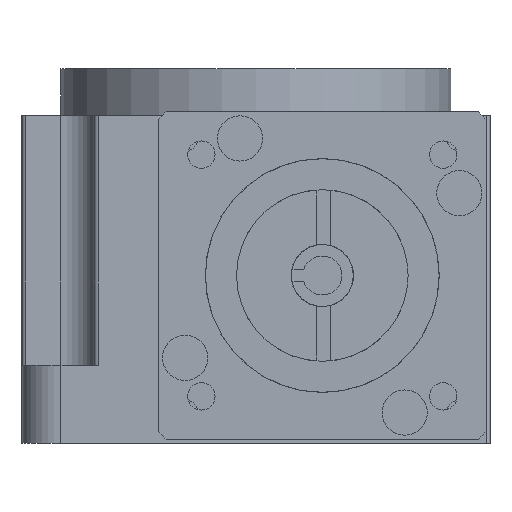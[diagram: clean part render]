
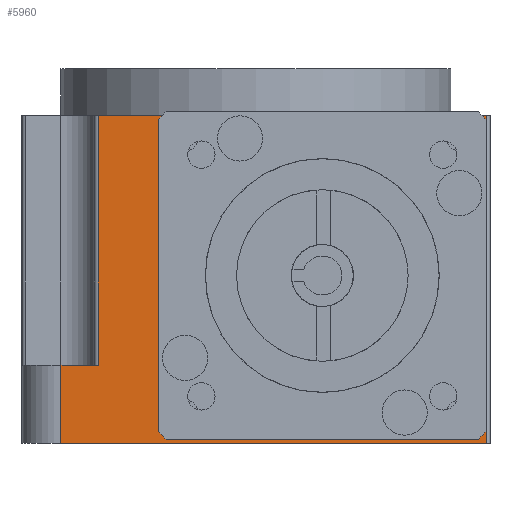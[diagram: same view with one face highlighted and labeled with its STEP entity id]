
A CAD part, front view. The second image highlights one B-rep face of the part: STEP entity #5960.
In plain terms, the highlighted planar face has unit normal (0, -1, 0).
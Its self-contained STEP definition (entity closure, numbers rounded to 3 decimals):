
#32 = VERTEX_POINT ( 'NONE', #13307 ) ;
#243 = DIRECTION ( 'NONE',  ( 0., -1., 0. ) ) ;
#287 = CARTESIAN_POINT ( 'NONE',  ( -25., -35., 10. ) ) ;
#295 = CARTESIAN_POINT ( 'NONE',  ( -8.5, -35., 38.5 ) ) ;
#311 = VECTOR ( 'NONE', #7309, 1000. ) ;
#409 = AXIS2_PLACEMENT_3D ( 'NONE', #13003, #5210, #14335 ) ;
#769 = LINE ( 'NONE', #7636, #14625 ) ;
#887 = VECTOR ( 'NONE', #15880, 1000. ) ;
#969 = AXIS2_PLACEMENT_3D ( 'NONE', #16643, #15667, #14641 ) ;
#1146 = DIRECTION ( 'NONE',  ( 0., 0., -1. ) ) ;
#1267 = CARTESIAN_POINT ( 'NONE',  ( 29.5, -35., 42. ) ) ;
#1392 = CARTESIAN_POINT ( 'NONE',  ( -25., -35., 42. ) ) ;
#1528 = DIRECTION ( 'NONE',  ( 0., 0., 1. ) ) ;
#2205 = ORIENTED_EDGE ( 'NONE', *, *, #13709, .F. ) ;
#2221 = VERTEX_POINT ( 'NONE', #7069 ) ;
#2441 = ORIENTED_EDGE ( 'NONE', *, *, #3795, .F. ) ;
#2937 = LINE ( 'NONE', #10856, #12907 ) ;
#2983 = ORIENTED_EDGE ( 'NONE', *, *, #12476, .F. ) ;
#3013 = VECTOR ( 'NONE', #5856, 1000. ) ;
#3123 = EDGE_CURVE ( 'NONE', #9790, #3442, #14917, .T. ) ;
#3253 = ORIENTED_EDGE ( 'NONE', *, *, #15693, .F. ) ;
#3392 = CIRCLE ( 'NONE', #409, 3. ) ;
#3442 = VERTEX_POINT ( 'NONE', #8932 ) ;
#3502 = ORIENTED_EDGE ( 'NONE', *, *, #3123, .F. ) ;
#3596 = CARTESIAN_POINT ( 'NONE',  ( -25., -35., 10. ) ) ;
#3750 = FACE_OUTER_BOUND ( 'NONE', #12372, .T. ) ;
#3795 = EDGE_CURVE ( 'NONE', #13877, #16202, #4103, .T. ) ;
#3850 = FACE_BOUND ( 'NONE', #12995, .T. ) ;
#3920 = LINE ( 'NONE', #14574, #887 ) ;
#4103 = CIRCLE ( 'NONE', #14702, 3. ) ;
#4483 = VERTEX_POINT ( 'NONE', #9343 ) ;
#4987 = VECTOR ( 'NONE', #11360, 1000. ) ;
#5039 = DIRECTION ( 'NONE',  ( 0., -1., 0. ) ) ;
#5210 = DIRECTION ( 'NONE',  ( 0., -1., 0. ) ) ;
#5260 = CARTESIAN_POINT ( 'NONE',  ( -25., -35., 0. ) ) ;
#5496 = ORIENTED_EDGE ( 'NONE', *, *, #7761, .F. ) ;
#5856 = DIRECTION ( 'NONE',  ( -1., 0., 0. ) ) ;
#5960 = ADVANCED_FACE ( 'NONE', ( #3850, #3750 ), #14445, .F. ) ;
#6026 = CARTESIAN_POINT ( 'NONE',  ( -20.2, -35., 42. ) ) ;
#6718 = CIRCLE ( 'NONE', #14484, 3. ) ;
#6726 = EDGE_CURVE ( 'NONE', #7907, #32, #10533, .T. ) ;
#6807 = CARTESIAN_POINT ( 'NONE',  ( -11.5, -35., 4.5 ) ) ;
#7069 = CARTESIAN_POINT ( 'NONE',  ( 29.5, -35., 0. ) ) ;
#7174 = VERTEX_POINT ( 'NONE', #7866 ) ;
#7309 = DIRECTION ( 'NONE',  ( 0., 0., 1. ) ) ;
#7533 = DIRECTION ( 'NONE',  ( 1., 0., 0. ) ) ;
#7636 = CARTESIAN_POINT ( 'NONE',  ( -25., -35., 1.5 ) ) ;
#7761 = EDGE_CURVE ( 'NONE', #16563, #13375, #2937, .T. ) ;
#7866 = CARTESIAN_POINT ( 'NONE',  ( 25.5, -35., 1.5 ) ) ;
#7907 = VERTEX_POINT ( 'NONE', #16044 ) ;
#8167 = VECTOR ( 'NONE', #12999, 1000. ) ;
#8178 = LINE ( 'NONE', #8546, #311 ) ;
#8182 = VECTOR ( 'NONE', #15873, 1000. ) ;
#8420 = CARTESIAN_POINT ( 'NONE',  ( -25., -35., 41.5 ) ) ;
#8546 = CARTESIAN_POINT ( 'NONE',  ( -20.2, -35., 42. ) ) ;
#8602 = ORIENTED_EDGE ( 'NONE', *, *, #15110, .F. ) ;
#8861 = CARTESIAN_POINT ( 'NONE',  ( -11.5, -35., 38.5 ) ) ;
#8932 = CARTESIAN_POINT ( 'NONE',  ( 29.5, -35., 42. ) ) ;
#9062 = LINE ( 'NONE', #8420, #3013 ) ;
#9343 = CARTESIAN_POINT ( 'NONE',  ( 25.5, -35., 41.5 ) ) ;
#9790 = VERTEX_POINT ( 'NONE', #6026 ) ;
#10012 = CIRCLE ( 'NONE', #15229, 3. ) ;
#10069 = EDGE_CURVE ( 'NONE', #7174, #7907, #6718, .T. ) ;
#10370 = EDGE_CURVE ( 'NONE', #3442, #2221, #15230, .T. ) ;
#10533 = LINE ( 'NONE', #15964, #8182 ) ;
#10621 = LINE ( 'NONE', #3596, #4987 ) ;
#10856 = CARTESIAN_POINT ( 'NONE',  ( -25., -35., 42. ) ) ;
#11360 = DIRECTION ( 'NONE',  ( 1., 0., 0. ) ) ;
#11624 = ORIENTED_EDGE ( 'NONE', *, *, #16009, .F. ) ;
#12372 = EDGE_LOOP ( 'NONE', ( #2983, #8602, #5496, #2205, #14529, #3502 ) ) ;
#12476 = EDGE_CURVE ( 'NONE', #16632, #9790, #8178, .T. ) ;
#12758 = VERTEX_POINT ( 'NONE', #6807 ) ;
#12806 = VECTOR ( 'NONE', #7533, 1000. ) ;
#12812 = DIRECTION ( 'NONE',  ( 0., 0., 1. ) ) ;
#12832 = CARTESIAN_POINT ( 'NONE',  ( -8.5, -35., 4.5 ) ) ;
#12860 = DIRECTION ( 'NONE',  ( 0., -1., 0. ) ) ;
#12875 = CARTESIAN_POINT ( 'NONE',  ( 25.5, -35., 4.5 ) ) ;
#12907 = VECTOR ( 'NONE', #1528, 1000. ) ;
#12995 = EDGE_LOOP ( 'NONE', ( #11624, #14410, #14039, #14405, #3253, #14041, #15445, #2441 ) ) ;
#12999 = DIRECTION ( 'NONE',  ( -1., 0., 0. ) ) ;
#13003 = CARTESIAN_POINT ( 'NONE',  ( 25.5, -35., 38.5 ) ) ;
#13307 = CARTESIAN_POINT ( 'NONE',  ( 28.5, -35., 38.5 ) ) ;
#13375 = VERTEX_POINT ( 'NONE', #287 ) ;
#13651 = CARTESIAN_POINT ( 'NONE',  ( -25., -35., 0. ) ) ;
#13709 = EDGE_CURVE ( 'NONE', #2221, #16563, #15155, .T. ) ;
#13877 = VERTEX_POINT ( 'NONE', #16030 ) ;
#14027 = CARTESIAN_POINT ( 'NONE',  ( -8.5, -35., 1.5 ) ) ;
#14039 = ORIENTED_EDGE ( 'NONE', *, *, #6726, .F. ) ;
#14041 = ORIENTED_EDGE ( 'NONE', *, *, #15159, .F. ) ;
#14060 = VERTEX_POINT ( 'NONE', #14027 ) ;
#14158 = DIRECTION ( 'NONE',  ( 0., 0., 1. ) ) ;
#14335 = DIRECTION ( 'NONE',  ( 0., 0., 1. ) ) ;
#14405 = ORIENTED_EDGE ( 'NONE', *, *, #10069, .F. ) ;
#14410 = ORIENTED_EDGE ( 'NONE', *, *, #16850, .F. ) ;
#14445 = PLANE ( 'NONE',  #969 ) ;
#14484 = AXIS2_PLACEMENT_3D ( 'NONE', #12875, #12860, #12812 ) ;
#14529 = ORIENTED_EDGE ( 'NONE', *, *, #10370, .F. ) ;
#14574 = CARTESIAN_POINT ( 'NONE',  ( -11.5, -35., 42. ) ) ;
#14625 = VECTOR ( 'NONE', #16815, 1000. ) ;
#14641 = DIRECTION ( 'NONE',  ( 0., 0., 1. ) ) ;
#14702 = AXIS2_PLACEMENT_3D ( 'NONE', #295, #243, #14703 ) ;
#14703 = DIRECTION ( 'NONE',  ( 0., 0., 1. ) ) ;
#14829 = EDGE_CURVE ( 'NONE', #16202, #12758, #3920, .T. ) ;
#14917 = LINE ( 'NONE', #1392, #12806 ) ;
#15110 = EDGE_CURVE ( 'NONE', #13375, #16632, #10621, .T. ) ;
#15136 = CARTESIAN_POINT ( 'NONE',  ( -20.2, -35., 10. ) ) ;
#15155 = LINE ( 'NONE', #5260, #8167 ) ;
#15159 = EDGE_CURVE ( 'NONE', #12758, #14060, #10012, .T. ) ;
#15229 = AXIS2_PLACEMENT_3D ( 'NONE', #12832, #5039, #14158 ) ;
#15230 = LINE ( 'NONE', #1267, #15318 ) ;
#15318 = VECTOR ( 'NONE', #1146, 1000. ) ;
#15445 = ORIENTED_EDGE ( 'NONE', *, *, #14829, .F. ) ;
#15667 = DIRECTION ( 'NONE',  ( 0., 1., 0. ) ) ;
#15693 = EDGE_CURVE ( 'NONE', #14060, #7174, #769, .T. ) ;
#15873 = DIRECTION ( 'NONE',  ( 0., 0., 1. ) ) ;
#15880 = DIRECTION ( 'NONE',  ( 0., 0., -1. ) ) ;
#15964 = CARTESIAN_POINT ( 'NONE',  ( 28.5, -35., 42. ) ) ;
#16009 = EDGE_CURVE ( 'NONE', #4483, #13877, #9062, .T. ) ;
#16030 = CARTESIAN_POINT ( 'NONE',  ( -8.5, -35., 41.5 ) ) ;
#16044 = CARTESIAN_POINT ( 'NONE',  ( 28.5, -35., 4.5 ) ) ;
#16202 = VERTEX_POINT ( 'NONE', #8861 ) ;
#16563 = VERTEX_POINT ( 'NONE', #13651 ) ;
#16632 = VERTEX_POINT ( 'NONE', #15136 ) ;
#16643 = CARTESIAN_POINT ( 'NONE',  ( -25., -35., 42. ) ) ;
#16815 = DIRECTION ( 'NONE',  ( 1., 0., 0. ) ) ;
#16850 = EDGE_CURVE ( 'NONE', #32, #4483, #3392, .T. ) ;
